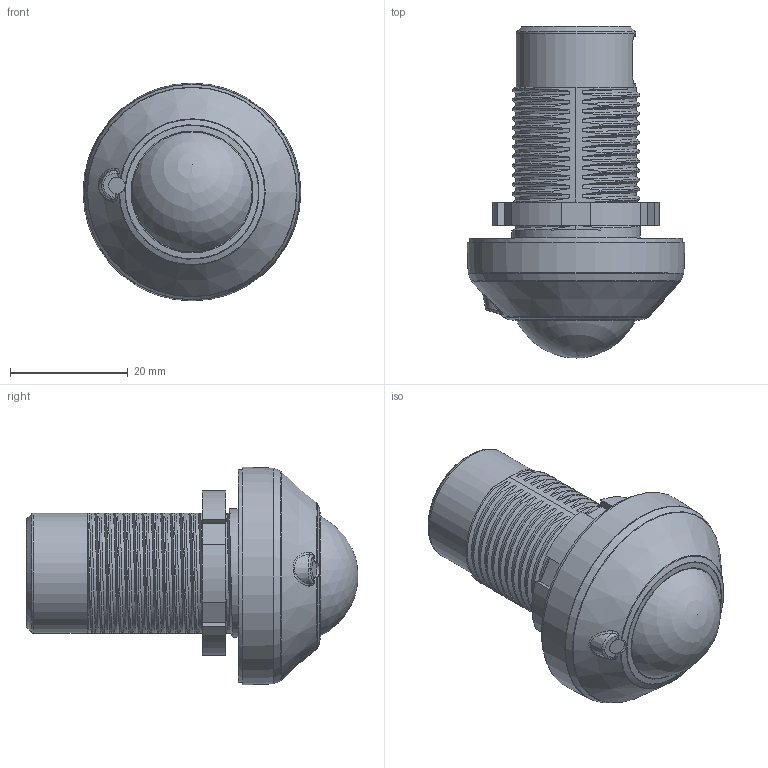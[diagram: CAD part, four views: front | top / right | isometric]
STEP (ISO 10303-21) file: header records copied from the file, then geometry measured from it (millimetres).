
FILE_DESCRIPTION (( 'STEP AP203' ), '1' );
FILE_NAME ('9C1-4549577-000-00.STP', '2025-08-11T09:52:28', ( '' ), ( '' ), 'SwSTEP 2.0', 'SolidWorks 2023', '' );
FILE_SCHEMA (( 'CONFIG_CONTROL_DESIGN' ));
Length unit declared in the file: millimetre
Products named in the file (1): 9C1-4549577-000-00
Bounding box: 36.99 x 56.35 x 36.99 mm (x, y, z)
Volume: 26157.9 mm3; surface area: 7490.6 mm2
Topology: 2 solids, 2 shells, 289 faces, 861 edges, 580 vertices
Faces by surface type: plane 98, bspline 88, cylinder 81, cone 17, torus 4, sphere 1
Full cylindrical faces by diameter (mm): 20.36 x1, 21.8 x1, 22.6 x1
Entity records: 23535 total; most frequent: CARTESIAN_POINT 17017, ORIENTED_EDGE 1668, EDGE_CURVE 834, DIRECTION 801, VERTEX_POINT 569, B_SPLINE_CURVE_WITH_KNOTS 467, EDGE_LOOP 311, VECTOR 303
